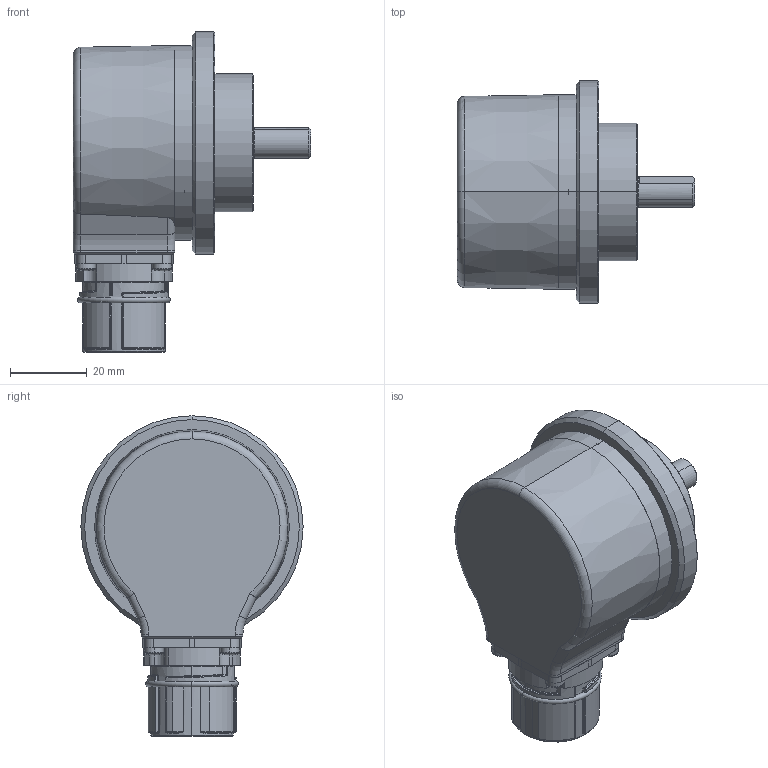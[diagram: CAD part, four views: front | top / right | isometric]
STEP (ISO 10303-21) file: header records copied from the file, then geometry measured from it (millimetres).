
FILE_DESCRIPTION (( 'STEP AP203' ), '1' );
FILE_NAME ('8.5000.76X8.XXXX.STEP', '2017-04-05T07:50:36', ( '' ), ( '' ), 'SwSTEP 2.0', 'SolidWorks 2017', '' );
FILE_SCHEMA (( 'CONFIG_CONTROL_DESIGN' ));
Length unit declared in the file: millimetre
Products named in the file (1): 8.5000.76X8.XXXX
Bounding box: 62 x 58 x 83.6 mm (x, y, z)
Volume: 56064.2 mm3; surface area: 38902.1 mm2
Topology: 24 solids, 24 shells, 1259 faces, 2910 edges, 1776 vertices
Faces by surface type: cylinder 469, plane 365, cone 152, bspline 121, torus 92, sphere 60
Entity records: 41396 total; most frequent: CARTESIAN_POINT 12930, DIRECTION 6151, ORIENTED_EDGE 5704, EDGE_CURVE 2852, AXIS2_PLACEMENT_3D 2473, VERTEX_POINT 1768, EDGE_LOOP 1434, CIRCLE 1334
